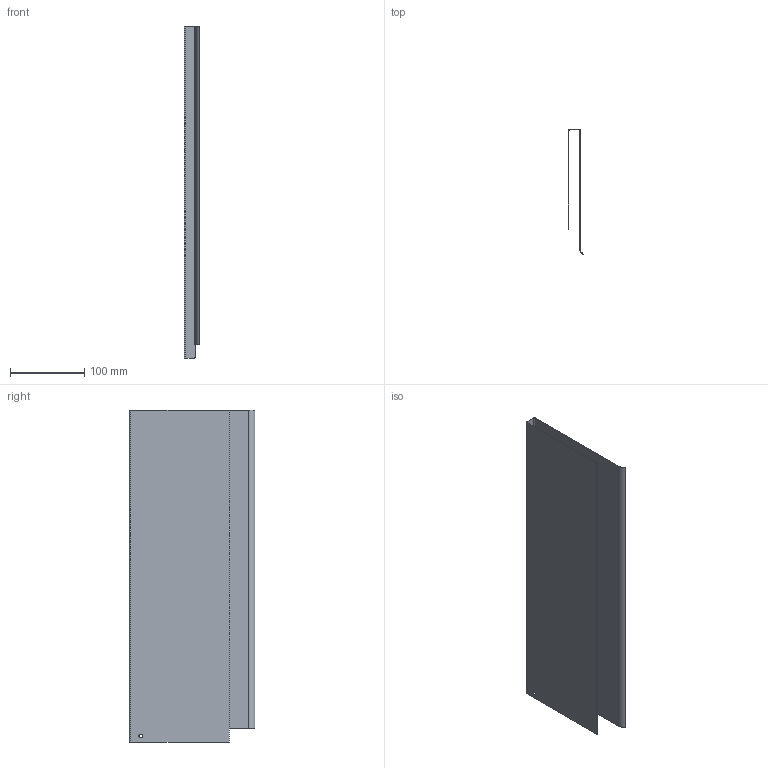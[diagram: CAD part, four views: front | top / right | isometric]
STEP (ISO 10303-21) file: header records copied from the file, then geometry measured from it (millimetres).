
FILE_DESCRIPTION (( 'STEP AP203' ), '1' );
FILE_NAME ('Nova Pro Duowing H186 HRW Classic links_NL450.step', '2014-02-14T12:04:42', ( 'test' ), ( '' ), 'SwSTEP 2.0', 'SolidWorks 2013', '' );
FILE_SCHEMA (( 'CONFIG_CONTROL_DESIGN' ));
Length unit declared in the file: millimetre
Products named in the file (1): Nova Pro Duowing H186 HRW Classic links_NL450
Bounding box: 20.72 x 169 x 447.5 mm (x, y, z)
Volume: 69840.7 mm3; surface area: 280137.3 mm2
Topology: 1 solids, 1 shells, 29 faces, 66 edges, 39 vertices
Faces by surface type: plane 20, cylinder 9
Entity records: 880 total; most frequent: DIRECTION 145, CARTESIAN_POINT 135, ORIENTED_EDGE 132, EDGE_CURVE 66, AXIS2_PLACEMENT_3D 49, LINE 47, VECTOR 47, VERTEX_POINT 39
